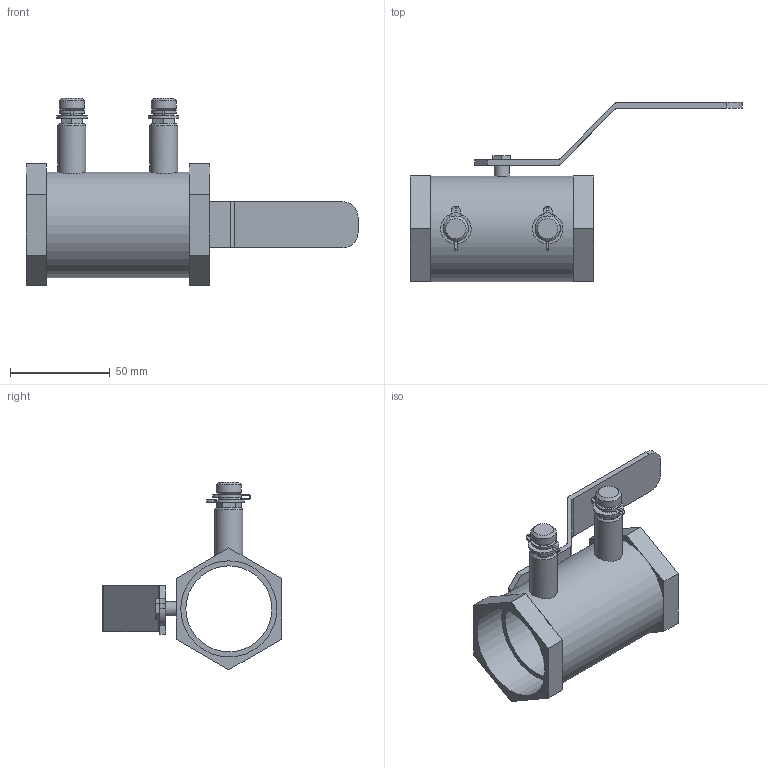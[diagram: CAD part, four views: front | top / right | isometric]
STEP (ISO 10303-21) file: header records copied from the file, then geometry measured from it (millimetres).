
FILE_DESCRIPTION(/* description */ ('VIC BALANCING VALVE SERIES 78BL (THD)','CAx-IF Rec.Pracs.---Representation and Presentation of Product Manufacturing Information (PMI)---4.0---2014-10-13'),/* implementation_level */ '2;1');
FILE_NAME(/* name */ 'C:\Users\kkamble\Desktop\New folder (12)\New folder\step\Victaulic-IPS-TA Balancing Ball Valve Series 78BL (THD)\Victaulic-IPS-TA Balancing Ball Valve Series 78BL (THD)_1.5 (40).stp',/* time_stamp */ '2020-10-13T18:40:03+05:00',/* author */ ('kkamble'),/* organization */ ('Victaulic'),/* preprocessor_version */ 'ST-DEVELOPER v17.2',/* originating_system */ 'Autodesk Inventor 2019',/* authorisation */ '');
FILE_SCHEMA (('AP242_MANAGED_MODEL_BASED_3D_ENGINEERING_MIM_LF { 1 0 10303 442 1 1 4 }'));
Length unit declared in the file: inch
Products named in the file (1): 78BL-01.5
Bounding box: 166.75 x 90 x 94.23 mm (x, y, z)
Volume: 79947.1 mm3; surface area: 42655.1 mm2
Topology: 3 solids, 3 shells, 163 faces, 431 edges, 275 vertices
Faces by surface type: plane 120, cylinder 37, cone 6
Full cylindrical faces by diameter (mm): 4.318 x1, 7.62 x1, 12.7 x2, 13.97 x2, 43.18 x1, 48.26 x2, 53.01 x1
Entity records: 5493 total; most frequent: CARTESIAN_POINT 993, DIRECTION 904, ORIENTED_EDGE 866, EDGE_CURVE 433, LINE 304, VECTOR 304, AXIS2_PLACEMENT_3D 300, VERTEX_POINT 277
